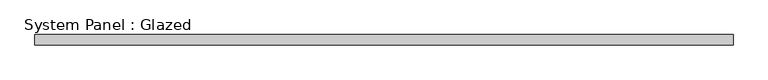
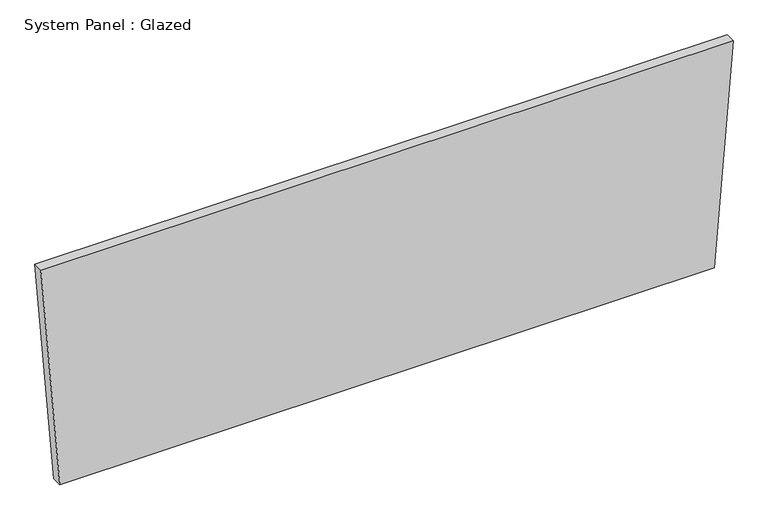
"""IFC4 building model written with IfcOpenShell, lengths in millimetres: plate geometry, System Panel : Glazed."""

from ifc_helpers import new_model, si_unit, frame, origin, place, context, project, spatial, polyline, outline, extrude, source, transform, mapped, element, save


def system_panel_glazed_05378adf(model_context):
    return source(origin(), model_context, "Body", "SweptSolid", [
        extrude(outline(polyline([(0.0, -815.82234), (0.0, 815.82234), (582.2023947, 863.0711364), (582.2023947, -863.0711364), (0.0, -815.82234)])), frame((0.0, 19.05, 0.0), z_axis=(0.0, 1.0, 0.0), x_axis=(0.0, 0.0, 1.0)), (0.0, 0.0, 1.0), 25.4),
    ])


if __name__ == "__main__":
    model = new_model("IFC4")
    model_context = context("Model", 3, world=origin())
    ifc_project = project(units=[si_unit("LENGTHUNIT", "METRE", prefix="MILLI")], contexts=[model_context])
    site = spatial("IfcSite", under=ifc_project)
    building = spatial("IfcBuilding", under=site)
    placement = place(None, origin())
    system_panel_glazed_shape = system_panel_glazed_05378adf(model_context)
    element("IfcPlate", 1, ObjectType="System Panel : Glazed", at=placement, inside=building, context=model_context, shape_type="MappedRepresentation", body=[
        mapped(system_panel_glazed_shape, transform((0.0, 0.0, 0.0), x_axis=(1.0, 0.0, 0.0), y_axis=(0.0, 1.0, 0.0), z_axis=(0.0, 0.0, 1.0))),
    ])
    save(model, "model.ifc")
